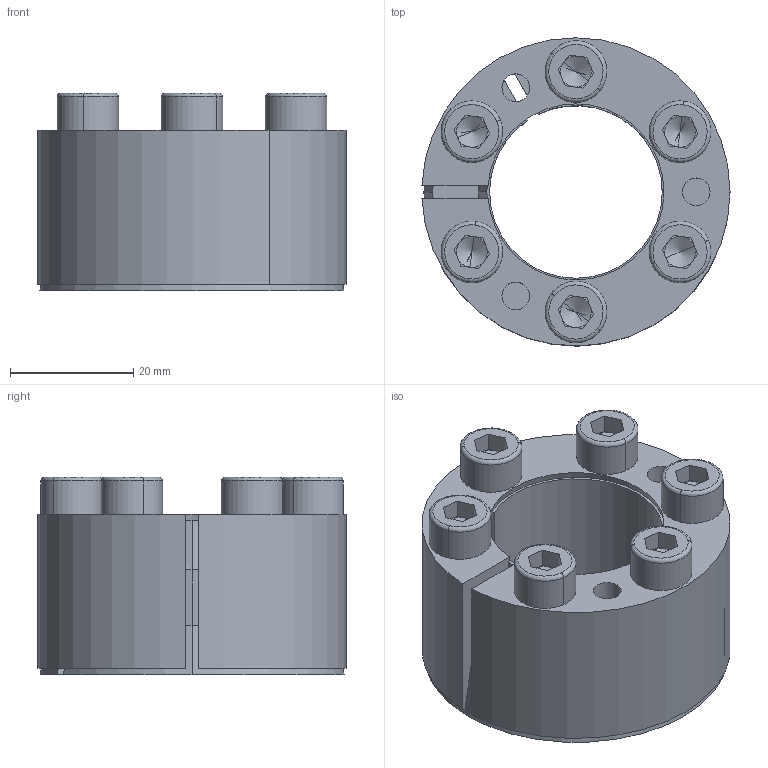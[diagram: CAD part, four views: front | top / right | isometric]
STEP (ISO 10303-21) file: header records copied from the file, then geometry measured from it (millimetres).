
FILE_DESCRIPTION (( 'STEP AP214' ), '1' );
FILE_NAME ('CONEX-K-28x50.step', '2013-04-06T13:20:58', ( 'Pc' ), ( '' ), 'SwSTEP 2.0', 'SolidWorks 2013', '' );
FILE_SCHEMA (( 'AUTOMOTIVE_DESIGN' ));
Length unit declared in the file: millimetre
Products named in the file (1): CONEX-K-28x50
Bounding box: 49.98 x 50 x 32.02 mm (x, y, z)
Volume: 29352.9 mm3; surface area: 23475.9 mm2
Topology: 8 solids, 8 shells, 226 faces, 524 edges, 314 vertices
Faces by surface type: plane 100, cylinder 66, cone 36, torus 24
Entity records: 8977 total; most frequent: DIRECTION 1204, CARTESIAN_POINT 1077, ORIENTED_EDGE 1024, EDGE_CURVE 512, AXIS2_PLACEMENT_3D 473, VERTEX_POINT 314, EDGE_LOOP 268, VECTOR 258
